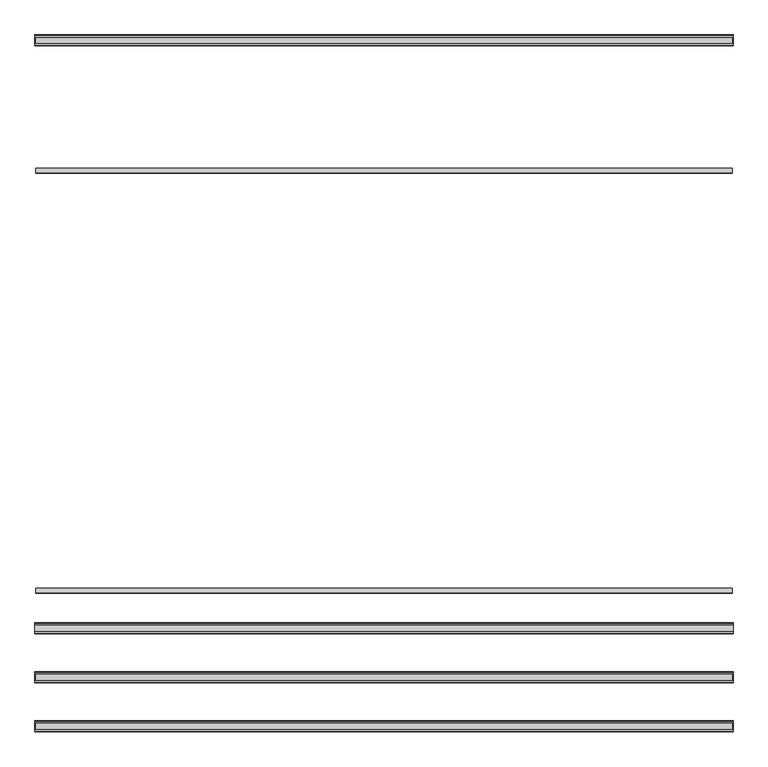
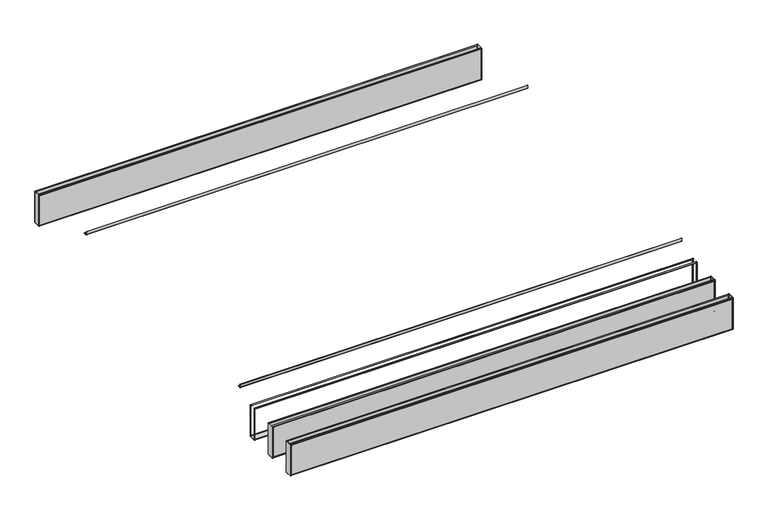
"""IFC4 building model written with IfcOpenShell, lengths in millimetres: proxy geometry, durlum_POLYLAM_KS : durlum_POLYLAM-KS/-S 63."""

import ifcopenshell
import ifcopenshell.guid

model = None  # the IFC model being written
_history = None  # IfcOwnerHistory: only IFC2X3 demands one
_inside = {}  # id of a spatial element -> (the spatial element, [elements in it])
_under = {}  # id of a project, library or spatial element -> (it, [spatial elements below it])
_declared = {}  # id of a project -> (the project, [libraries it declares])
_typed = {}  # id of a type object -> (the type object, [elements of that type])
_made_of = {}  # id of a material, layer set ... -> (it, [elements and type objects made of it])


def new_model(schema):
    """Start an empty IFC model of exactly this schema.

    Asked for "IFC4X3", IfcOpenShell would pick the latest addendum, in which some entities
    have other attributes; the version numbers below select the first issue.
    IFC2X3 requires an IfcOwnerHistory on every rooted entity: one is made here for all.
    """
    global model, _history
    if schema == "IFC4X3":
        model = ifcopenshell.file(schema_version=(4, 3, 0, 0))
    else:
        model = ifcopenshell.file(schema=schema)
    _inside.clear()
    _under.clear()
    _declared.clear()
    _typed.clear()
    _made_of.clear()
    _history = None
    if model.schema == "IFC2X3":
        org = make("IfcOrganization", Name="unknown")
        user = make(
            "IfcPersonAndOrganization",
            ThePerson=make("IfcPerson", FamilyName="unknown"),
            TheOrganization=org,
        )
        app = make(
            "IfcApplication",
            ApplicationDeveloper=org,
            Version="unknown",
            ApplicationFullName="unknown",
            ApplicationIdentifier="unknown",
        )
        _history = make(
            "IfcOwnerHistory",
            OwningUser=user,
            OwningApplication=app,
            ChangeAction="ADDED",
            CreationDate=0,
        )
    return model


def make(cls, **values):
    """One entity of the class cls with the attributes given. An attribute that is None is left unset."""
    return model.create_entity(
        cls, **{name: value for name, value in values.items() if value is not None}
    )


def rooted(cls, **values):
    """An entity with a GlobalId (a new one), such as an element, a storey or a relation."""
    return make(cls, GlobalId=ifcopenshell.guid.new(), OwnerHistory=_history, **values)


def si_unit(unit_type, name, prefix=None):
    """IfcSIUnit, for example si_unit("LENGTHUNIT", "METRE", prefix="MILLI")."""
    return make("IfcSIUnit", UnitType=unit_type, Prefix=prefix, Name=name)


def assignment(units):
    """IfcUnitAssignment: the units of a project."""
    return None if units is None else make("IfcUnitAssignment", Units=units)


def point(xyz):
    """IfcCartesianPoint."""
    return None if xyz is None else make("IfcCartesianPoint", Coordinates=xyz)


def direction(xyz):
    """IfcDirection."""
    return None if xyz is None else make("IfcDirection", DirectionRatios=xyz)


def frame(location, z_axis=None, x_axis=None):
    """IfcAxis2Placement3D, a coordinate frame: its origin and axes. An axis left out is left unset."""
    return make(
        "IfcAxis2Placement3D",
        Location=point(location),
        Axis=direction(z_axis),
        RefDirection=direction(x_axis),
    )


def frame_2d(location, x_axis=None):
    """IfcAxis2Placement2D, a coordinate frame in the plane: its origin and x axis."""
    return make(
        "IfcAxis2Placement2D", Location=point(location), RefDirection=direction(x_axis)
    )


def origin():
    """The frame at (0, 0, 0) with its axes left unset."""
    return frame((0.0, 0.0, 0.0))


def place(relative_to, where):
    """IfcLocalPlacement: puts the frame where relative to a parent placement (None: the world)."""
    return make(
        "IfcLocalPlacement", PlacementRelTo=relative_to, RelativePlacement=where
    )


def context(
    kind, dimensions, precision=None, world=None, true_north=None, identifier=None
):
    """IfcGeometricRepresentationContext, for example the 3D "Model" context."""
    return make(
        "IfcGeometricRepresentationContext",
        ContextIdentifier=identifier,
        ContextType=kind,
        CoordinateSpaceDimension=dimensions,
        Precision=precision,
        WorldCoordinateSystem=world,
        TrueNorth=true_north,
    )


def project(units=None, contexts=None):
    """IfcProject with its units and contexts."""
    return rooted(
        "IfcProject",
        Name="project",
        RepresentationContexts=contexts,
        UnitsInContext=assignment(units),
    )


def spatial(cls, under=None, at=None, **own):
    """A site, building, storey or space (cls), placed at a placement, below another one or the project."""
    s = rooted(cls, ObjectPlacement=at, **own)
    if under is not None:
        _under.setdefault(under.id(), (under, []))[1].append(s)
    return s


def polyline(points):
    """IfcPolyline through the points."""
    return make("IfcPolyline", Points=[point(p) for p in points])


def circle_curve(where, radius):
    """IfcCircle in the frame where."""
    return make("IfcCircle", Position=where, Radius=radius)


def trimmed(basis, trim1, trim2, sense, master):
    """IfcTrimmedCurve: the piece of a basis curve between two trims."""
    return make(
        "IfcTrimmedCurve",
        BasisCurve=basis,
        Trim1=trim1,
        Trim2=trim2,
        SenseAgreement=sense,
        MasterRepresentation=master,
    )


def segment(curve, same_sense, transition):
    """IfcCompositeCurveSegment."""
    return make(
        "IfcCompositeCurveSegment",
        Transition=transition,
        SameSense=same_sense,
        ParentCurve=curve,
    )


def composite_curve(segments, self_intersect=None):
    """IfcCompositeCurve: segments joined end to end."""
    return make("IfcCompositeCurve", Segments=segments, SelfIntersect=self_intersect)


def outline(outer, holes=None, kind="AREA"):
    """IfcArbitraryClosedProfileDef: a profile drawn as a closed curve; with holes, ...WithVoids."""
    if holes is None:
        return make("IfcArbitraryClosedProfileDef", ProfileType=kind, OuterCurve=outer)
    return make(
        "IfcArbitraryProfileDefWithVoids",
        ProfileType=kind,
        OuterCurve=outer,
        InnerCurves=holes,
    )


def extrude(swept, where, along, depth):
    """IfcExtrudedAreaSolid: the profile swept, set in the frame where, extruded along a direction by depth."""
    return make(
        "IfcExtrudedAreaSolid",
        SweptArea=swept,
        Position=where,
        ExtrudedDirection=direction(along),
        Depth=depth,
    )


def shape(context_of_items, identifier, shape_type, items):
    """IfcShapeRepresentation: the items that make up one representation, for example the "Body"."""
    return make(
        "IfcShapeRepresentation",
        ContextOfItems=context_of_items,
        RepresentationIdentifier=identifier,
        RepresentationType=shape_type,
        Items=items,
    )


def source(mapping_origin, context_of_items, identifier, shape_type, items):
    """IfcRepresentationMap: a shape defined once, which mapped items show again and again."""
    return make(
        "IfcRepresentationMap",
        MappingOrigin=mapping_origin,
        MappedRepresentation=shape(context_of_items, identifier, shape_type, items),
    )


def transform(
    local_origin,
    x_axis=None,
    y_axis=None,
    z_axis=None,
    scale=None,
    scale2=None,
    scale3=None,
    uniform=True,
):
    """IfcCartesianTransformationOperator3D, or its non-uniform kind. x_axis, y_axis, z_axis: its Axis1, 2, 3."""
    if uniform:
        return make(
            "IfcCartesianTransformationOperator3D",
            Axis1=direction(x_axis),
            Axis2=direction(y_axis),
            LocalOrigin=point(local_origin),
            Scale=scale,
            Axis3=direction(z_axis),
        )
    return make(
        "IfcCartesianTransformationOperator3DnonUniform",
        Axis1=direction(x_axis),
        Axis2=direction(y_axis),
        LocalOrigin=point(local_origin),
        Scale=scale,
        Axis3=direction(z_axis),
        Scale2=scale2,
        Scale3=scale3,
    )


def mapped(mapping_source, mapping_target):
    """IfcMappedItem: shows the shape of a source again, moved by a transform."""
    return make(
        "IfcMappedItem", MappingSource=mapping_source, MappingTarget=mapping_target
    )


def made_of(thing, what):
    """Note that an element or type object is made of a material, layer set ...; save() writes the relation."""
    if what is not None:
        _made_of.setdefault(what.id(), (what, []))[1].append(thing)
    return thing


def element(
    cls,
    number,
    at=None,
    inside=None,
    cuts=None,
    type_object=None,
    material=None,
    context=None,
    identifier="Body",
    shape_type=None,
    held_by="IfcProductDefinitionShape",
    body=None,
    shapes=None,
    **own,
):
    """One element of the class cls, such as IfcWall. Its Tag is "e" and its number.

    at: its placement. inside: the storey or other place that contains it. cuts: it is an
    opening in that element (IfcRelVoidsElement). A single representation is given by context,
    identifier, shape_type and body (its items); several are given by shapes. held_by: the class
    of the entity that holds the representations. save() writes the other relations.
    """
    e = rooted(cls, Tag="e%d" % number, ObjectPlacement=at, **own)
    if body is not None:
        shapes = [shape(context, identifier, shape_type, body)]
    if shapes is not None:
        e.Representation = make(held_by, Representations=shapes)
    if inside is not None:
        _inside.setdefault(inside.id(), (inside, []))[1].append(e)
    if cuts is not None:
        rooted(
            "IfcRelVoidsElement", RelatingBuildingElement=cuts, RelatedOpeningElement=e
        )
    if type_object is not None:
        _typed.setdefault(type_object.id(), (type_object, []))[1].append(e)
    return made_of(e, material)


def aggregate(whole, parts):
    """IfcRelAggregates: a whole, such as a stair, and the parts it consists of."""
    return rooted("IfcRelAggregates", RelatingObject=whole, RelatedObjects=parts)


def save(model, path):
    """Write the relations noted so far, then the file.

    IfcRelAggregates (storeys below a building ...), IfcRelContainedInSpatialStructure (elements
    in a storey), IfcRelDefinesByType, IfcRelAssociatesMaterial and IfcRelDeclares: one each for
    every whole, place, type object, material and project.
    """
    for whole, parts in _under.values():
        aggregate(whole, parts)
    for where, things in _inside.values():
        rooted(
            "IfcRelContainedInSpatialStructure",
            RelatedElements=things,
            RelatingStructure=where,
        )
    for kind, things in _typed.values():
        rooted("IfcRelDefinesByType", RelatedObjects=things, RelatingType=kind)
    for what, things in _made_of.values():
        rooted("IfcRelAssociatesMaterial", RelatedObjects=things, RelatingMaterial=what)
    for by, libraries in _declared.values():
        rooted("IfcRelDeclares", RelatingContext=by, RelatedDefinitions=libraries)
    model.write(path)


def plane_surface(at):
    """IfcPlane: the flat surface through the origin of the frame at, square to its z axis."""
    return make("IfcPlane", Position=at)


def cylinder_surface(at, radius):
    """IfcCylindricalSurface: all points at the distance radius from the z axis of the frame at."""
    return make("IfcCylindricalSurface", Position=at, Radius=radius)


def advanced_brep(points, edges, surfaces, faces):
    """IfcAdvancedBrep: a solid bounded by faces that lie on surfaces and meet in shared edges.

    An edge is (start, end): straight between two places in points (the first is 0);
    or (start, end, curve); or (start, end, curve, False) where it runs against its curve.
    A face is (place in surfaces, loops), or (place, loops, False) where it looks against
    its surface's normal. A loop lists edges by number (the first is 1), with a minus sign
    where the edge is run from its end to its start. The first loop is the outer one.
    """
    corners = [point(p) for p in points]
    vertices = [make("IfcVertexPoint", VertexGeometry=c) for c in corners]
    made = []
    for start, end, *more in edges:
        made.append(
            make(
                "IfcEdgeCurve",
                EdgeStart=vertices[start],
                EdgeEnd=vertices[end],
                EdgeGeometry=more[0] if more else make("IfcPolyline", Points=[corners[start], corners[end]]),
                SameSense=more[1] if len(more) > 1 else True,
            )
        )
    hull = []
    for where, loops, *sense in faces:
        bounds = []
        for j, loop in enumerate(loops):
            ring = [make("IfcOrientedEdge", EdgeElement=made[abs(k) - 1], Orientation=k > 0) for k in loop]
            bounds.append(
                make(
                    "IfcFaceOuterBound" if j == 0 else "IfcFaceBound",
                    Bound=make("IfcEdgeLoop", EdgeList=ring),
                    Orientation=True,
                )
            )
        hull.append(make("IfcAdvancedFace", Bounds=bounds, FaceSurface=surfaces[where], SameSense=sense[0] if sense else True))
    return make("IfcAdvancedBrep", Outer=make("IfcClosedShell", CfsFaces=hull))


def generic_models_3c33ed08(model_context):
    return source(origin(), model_context, "Body", "SolidModel", [
        advanced_brep(
        [(1995.0, -1370.5, 1990.9), (1995.0, -1380.5, 1990.9), (1995.0, -1380.5, 1990.0604454), (1995.0, -1369.5, 1990.0604454), (1995.0, -1369.5, 1691.9), (1995.0, -1430.5, 1691.9), (1995.0, -1430.5, 1989.8155735), (1995.0, -1419.5, 1989.8155735), (1995.0, -1419.5, 1990.9), (1995.0, -1429.5, 1990.9), (1995.0, -1431.5, 1988.9), (1995.0, -1431.5, 1692.9), (1995.0, -1429.5, 1690.9), (1995.0, -1370.5, 1690.9), (1995.0, -1368.5, 1692.9), (1995.0, -1368.5, 1988.9), (-1995.0, -1370.5, 1990.9), (-1995.0, -1368.5, 1988.9), (-1995.0, -1368.5, 1692.9), (-1995.0, -1370.5, 1690.9), (-1995.0, -1429.5, 1690.9), (-1995.0, -1431.5, 1692.9), (-1995.0, -1431.5, 1988.9), (-1995.0, -1429.5, 1990.9), (-1995.0, -1419.5, 1990.9), (-1995.0, -1419.5, 1989.8155735), (-1995.0, -1430.5, 1989.8155735), (-1995.0, -1430.5, 1691.9), (-1995.0, -1369.5, 1691.9), (-1995.0, -1369.5, 1990.0604454), (-1995.0, -1380.5, 1990.0604454), (-1995.0, -1380.5, 1990.9), (-1986.5, -1369.5, 1982.4), (1986.5, -1369.5, 1982.4), (1986.5, -1369.5, 1699.4), (-1986.5, -1369.5, 1699.4), (1986.5, -1430.5, 1982.4), (-1986.5, -1430.5, 1982.4), (-1986.5, -1430.5, 1699.4), (1986.5, -1430.5, 1699.4), (-1986.5, -1431.5, 1982.4), (1986.5, -1431.5, 1982.4), (1986.5, -1431.5, 1699.4), (-1986.5, -1431.5, 1699.4), (1986.5, -1368.5, 1982.4), (-1986.5, -1368.5, 1982.4), (-1986.5, -1368.5, 1699.4), (1986.5, -1368.5, 1699.4)],
        [
            (0, 1),
            (1, 2),
            (2, 3),
            (3, 4),
            (4, 5),
            (5, 6),
            (6, 7),
            (7, 8),
            (8, 9),
            (9, 10, circle_curve(frame((1995.0, -1429.5, 1988.9), z_axis=(1.0, 0.0, 0.0), x_axis=(0.0, 1.0, 0.0)), 2.0)),
            (10, 11),
            (11, 12, circle_curve(frame((1995.0, -1429.5, 1692.9), z_axis=(1.0, 0.0, 0.0), x_axis=(0.0, 1.0, 0.0)), 2.0)),
            (12, 13),
            (13, 14, circle_curve(frame((1995.0, -1370.5, 1692.9), z_axis=(1.0, 0.0, 0.0), x_axis=(0.0, 1.0, 0.0)), 2.0)),
            (14, 15),
            (15, 0, circle_curve(frame((1995.0, -1370.5, 1988.9), z_axis=(1.0, 0.0, 0.0), x_axis=(0.0, 1.0, 0.0)), 2.0)),
            (16, 17, circle_curve(frame((-1995.0, -1370.5, 1988.9), z_axis=(-1.0, 0.0, 0.0), x_axis=(0.0, 1.0, 0.0)), 2.0)),
            (17, 18),
            (18, 19, circle_curve(frame((-1995.0, -1370.5, 1692.9), z_axis=(-1.0, 0.0, 0.0), x_axis=(0.0, 1.0, 0.0)), 2.0)),
            (19, 20),
            (20, 21, circle_curve(frame((-1995.0, -1429.5, 1692.9), z_axis=(-1.0, 0.0, 0.0), x_axis=(0.0, 1.0, 0.0)), 2.0)),
            (21, 22),
            (22, 23, circle_curve(frame((-1995.0, -1429.5, 1988.9), z_axis=(-1.0, 0.0, 0.0), x_axis=(0.0, 1.0, 0.0)), 2.0)),
            (23, 24),
            (24, 25),
            (25, 26),
            (26, 27),
            (27, 28),
            (28, 29),
            (29, 30),
            (30, 31),
            (31, 16),
            (0, 16),
            (31, 1),
            (30, 2),
            (29, 3),
            (28, 4),
            (32, 33),
            (33, 34),
            (34, 35),
            (35, 32),
            (27, 5),
            (26, 6),
            (36, 37),
            (37, 38),
            (38, 39),
            (39, 36),
            (25, 7),
            (24, 8),
            (23, 9),
            (10, 22),
            (21, 11),
            (40, 41),
            (41, 42),
            (42, 43),
            (43, 40),
            (12, 20),
            (19, 13),
            (14, 18),
            (17, 15),
            (44, 45),
            (45, 46),
            (46, 47),
            (47, 44),
            (44, 33),
            (32, 45),
            (36, 41),
            (40, 37),
            (35, 46),
            (43, 38),
            (34, 47),
            (42, 39),
        ],
        [
            plane_surface(frame((1995.0, -1380.5, 1990.9), z_axis=(1.0, 0.0, 0.0), x_axis=(0.0, -1.0, 0.0))),
            plane_surface(frame((-1995.0, -1380.5, 1990.9), z_axis=(-1.0, 0.0, 0.0), x_axis=(0.0, 1.0, 0.0))),
            plane_surface(frame((1995.0, -1370.5, 1990.9), z_axis=(0.0, 0.0, 1.0), x_axis=(-1.0, 0.0, 0.0))),
            plane_surface(frame((1995.0, -1380.5, 1990.9), z_axis=(0.0, -1.0, 0.0), x_axis=(-1.0, 0.0, 0.0))),
            plane_surface(frame((1995.0, -1380.5, 1990.0604454), z_axis=(0.0, 0.0, -1.0), x_axis=(-1.0, 0.0, 0.0))),
            plane_surface(frame((1995.0, -1369.5, 1990.0604454), z_axis=(0.0, -1.0, 0.0), x_axis=(-1.0, 0.0, 0.0))),
            plane_surface(frame((1995.0, -1369.5, 1691.9), z_axis=(0.0, 0.0, 1.0), x_axis=(-1.0, 0.0, 0.0))),
            plane_surface(frame((1995.0, -1430.5, 1691.9), z_axis=(0.0, 1.0, 0.0), x_axis=(-1.0, 0.0, 0.0))),
            plane_surface(frame((1995.0, -1430.5, 1989.8155735), z_axis=(0.0, 0.0, -1.0), x_axis=(-1.0, 0.0, 0.0))),
            plane_surface(frame((1995.0, -1419.5, 1989.8155735), z_axis=(0.0, 1.0, 0.0), x_axis=(-1.0, 0.0, 0.0))),
            plane_surface(frame((1995.0, -1419.5, 1990.9), z_axis=(0.0, 0.0, 1.0), x_axis=(-1.0, 0.0, 0.0))),
            plane_surface(frame((1995.0, -1431.5, 1988.9), z_axis=(0.0, -1.0, 0.0), x_axis=(-1.0, 0.0, 0.0))),
            plane_surface(frame((1995.0, -1429.5, 1690.9), z_axis=(0.0, 0.0, -1.0), x_axis=(-1.0, 0.0, 0.0))),
            plane_surface(frame((1995.0, -1368.5, 1692.9), z_axis=(0.0, 1.0, 0.0), x_axis=(-1.0, 0.0, 0.0))),
            cylinder_surface(frame((-1995.0, -1429.5, 1988.9), z_axis=(1.0, 0.0, 0.0), x_axis=(0.0, 1.0, 0.0)), 2.0),
            cylinder_surface(frame((-1995.0, -1429.5, 1692.9), z_axis=(1.0, 0.0, 0.0), x_axis=(0.0, 1.0, 0.0)), 2.0),
            cylinder_surface(frame((-1995.0, -1370.5, 1692.9), z_axis=(1.0, 0.0, 0.0), x_axis=(0.0, 1.0, 0.0)), 2.0),
            cylinder_surface(frame((-1995.0, -1370.5, 1988.9), z_axis=(1.0, 0.0, 0.0), x_axis=(0.0, 1.0, 0.0)), 2.0),
            plane_surface(frame((1986.5, -1431.5, 1982.4), z_axis=(0.0, 0.0, -1.0), x_axis=(0.0, 1.0, 0.0))),
            plane_surface(frame((-1986.5, -1431.5, 1982.4), z_axis=(1.0, 0.0, 0.0), x_axis=(0.0, 1.0, 0.0))),
            plane_surface(frame((-1986.5, -1431.5, 1699.4), z_axis=(0.0, 0.0, 1.0), x_axis=(0.0, 1.0, 0.0))),
            plane_surface(frame((1986.5, -1431.5, 1699.4), z_axis=(-1.0, 0.0, 0.0), x_axis=(0.0, 1.0, 0.0))),
        ],
        [
            (0, [[1, 2, 3, 4, 5, 6, 7, 8, 9, 10, 11, 12, 13, 14, 15, 16]]),
            (1, [[17, 18, 19, 20, 21, 22, 23, 24, 25, 26, 27, 28, 29, 30, 31, 32]]),
            (2, [[-1, 33, -32, 34]]),
            (3, [[-2, -34, -31, 35]]),
            (4, [[-3, -35, -30, 36]]),
            (5, [[-4, -36, -29, 37], [38, 39, 40, 41]]),
            (6, [[-5, -37, -28, 42]]),
            (7, [[-6, -42, -27, 43], [44, 45, 46, 47]]),
            (8, [[-7, -43, -26, 48]]),
            (9, [[-8, -48, -25, 49]]),
            (10, [[-9, -49, -24, 50]]),
            (11, [[-11, 51, -22, 52], [53, 54, 55, 56]]),
            (12, [[-13, 57, -20, 58]]),
            (13, [[-15, 59, -18, 60], [61, 62, 63, 64]]),
            (14, [[-10, -50, -23, -51]]),
            (15, [[-12, -52, -21, -57]]),
            (16, [[-14, -58, -19, -59]]),
            (17, [[-16, -60, -17, -33]]),
            (18, [[65, -38, 66, -61]]),
            (18, [[67, -53, 68, -44]]),
            (19, [[-66, -41, 69, -62]]),
            (19, [[-68, -56, 70, -45]]),
            (20, [[-69, -40, 71, -63]]),
            (20, [[-70, -55, 72, -46]]),
            (21, [[-65, -64, -71, -39]]),
            (21, [[-67, -47, -72, -54]]),
        ],
    ),
        extrude(outline(polyline([(1986.5, -1649.5), (-1986.5, -1649.5), (-1986.5, -1648.5), (1986.5, -1648.5), (1986.5, -1649.5)])), frame((0.0, 0.0, 1699.4), z_axis=(0.0, 0.0, 1.0), x_axis=(1.0, 0.0, 0.0)), (0.0, 0.0, 1.0), 283.0),
        extrude(outline(polyline([(1986.5, -1711.5), (-1986.5, -1711.5), (-1986.5, -1710.5), (1986.5, -1710.5), (1986.5, -1711.5)])), frame((0.0, 0.0, 1699.4), z_axis=(0.0, 0.0, 1.0), x_axis=(1.0, 0.0, 0.0)), (0.0, 0.0, 1.0), 283.0),
        extrude(outline(polyline([(1993.0, -1649.5), (1995.0, -1649.5), (1995.0, -1710.5), (1993.0, -1710.5), (1993.0, -1649.5)])), frame((0.0, 0.0, 1691.9), z_axis=(0.0, 0.0, 1.0), x_axis=(1.0, 0.0, 0.0)), (0.0, 0.0, 1.0), 298.1604454),
        extrude(outline(polyline([(-1995.0, -1649.5), (-1993.0, -1649.5), (-1993.0, -1710.5), (-1995.0, -1710.5), (-1995.0, -1649.5)])), frame((0.0, 0.0, 1691.9), z_axis=(0.0, 0.0, 1.0), x_axis=(1.0, 0.0, 0.0)), (0.0, 0.0, 1.0), 298.1604454),
        advanced_brep(
        [(1995.0, -1650.5, 1990.9), (1995.0, -1660.5, 1990.9), (1995.0, -1660.5, 1990.0604454), (1995.0, -1649.5, 1990.0604454), (1995.0, -1649.5, 1691.9), (1995.0, -1710.5, 1691.9), (1995.0, -1710.5, 1989.8155735), (1995.0, -1699.5, 1989.8155735), (1995.0, -1699.5, 1990.9), (1995.0, -1709.5, 1990.9), (1995.0, -1711.5, 1988.9), (1995.0, -1711.5, 1692.9), (1995.0, -1709.5, 1690.9), (1995.0, -1650.5, 1690.9), (1995.0, -1648.5, 1692.9), (1995.0, -1648.5, 1988.9), (-1995.0, -1650.5, 1990.9), (-1995.0, -1648.5, 1988.9), (-1995.0, -1648.5, 1692.9), (-1995.0, -1650.5, 1690.9), (-1995.0, -1709.5, 1690.9), (-1995.0, -1711.5, 1692.9), (-1995.0, -1711.5, 1988.9), (-1995.0, -1709.5, 1990.9), (-1995.0, -1699.5, 1990.9), (-1995.0, -1699.5, 1989.8155735), (-1995.0, -1710.5, 1989.8155735), (-1995.0, -1710.5, 1691.9), (-1995.0, -1649.5, 1691.9), (-1995.0, -1649.5, 1990.0604454), (-1995.0, -1660.5, 1990.0604454), (-1995.0, -1660.5, 1990.9), (-1986.5, -1649.5, 1982.4), (1986.5, -1649.5, 1982.4), (1986.5, -1649.5, 1699.4), (-1986.5, -1649.5, 1699.4), (1986.5, -1710.5, 1982.4), (-1986.5, -1710.5, 1982.4), (-1986.5, -1710.5, 1699.4), (1986.5, -1710.5, 1699.4), (-1986.5, -1711.5, 1982.4), (1986.5, -1711.5, 1982.4), (1986.5, -1711.5, 1699.4), (-1986.5, -1711.5, 1699.4), (1986.5, -1648.5, 1982.4), (-1986.5, -1648.5, 1982.4), (-1986.5, -1648.5, 1699.4), (1986.5, -1648.5, 1699.4)],
        [
            (0, 1),
            (1, 2),
            (2, 3),
            (3, 4),
            (4, 5),
            (5, 6),
            (6, 7),
            (7, 8),
            (8, 9),
            (9, 10, circle_curve(frame((1995.0, -1709.5, 1988.9), z_axis=(1.0, 0.0, 0.0), x_axis=(0.0, 1.0, 0.0)), 2.0)),
            (10, 11),
            (11, 12, circle_curve(frame((1995.0, -1709.5, 1692.9), z_axis=(1.0, 0.0, 0.0), x_axis=(0.0, 1.0, 0.0)), 2.0)),
            (12, 13),
            (13, 14, circle_curve(frame((1995.0, -1650.5, 1692.9), z_axis=(1.0, 0.0, 0.0), x_axis=(0.0, 1.0, 0.0)), 2.0)),
            (14, 15),
            (15, 0, circle_curve(frame((1995.0, -1650.5, 1988.9), z_axis=(1.0, 0.0, 0.0), x_axis=(0.0, 1.0, 0.0)), 2.0)),
            (16, 17, circle_curve(frame((-1995.0, -1650.5, 1988.9), z_axis=(-1.0, 0.0, 0.0), x_axis=(0.0, 1.0, 0.0)), 2.0)),
            (17, 18),
            (18, 19, circle_curve(frame((-1995.0, -1650.5, 1692.9), z_axis=(-1.0, 0.0, 0.0), x_axis=(0.0, 1.0, 0.0)), 2.0)),
            (19, 20),
            (20, 21, circle_curve(frame((-1995.0, -1709.5, 1692.9), z_axis=(-1.0, 0.0, 0.0), x_axis=(0.0, 1.0, 0.0)), 2.0)),
            (21, 22),
            (22, 23, circle_curve(frame((-1995.0, -1709.5, 1988.9), z_axis=(-1.0, 0.0, 0.0), x_axis=(0.0, 1.0, 0.0)), 2.0)),
            (23, 24),
            (24, 25),
            (25, 26),
            (26, 27),
            (27, 28),
            (28, 29),
            (29, 30),
            (30, 31),
            (31, 16),
            (0, 16),
            (31, 1),
            (30, 2),
            (29, 3),
            (28, 4),
            (32, 33),
            (33, 34),
            (34, 35),
            (35, 32),
            (27, 5),
            (26, 6),
            (36, 37),
            (37, 38),
            (38, 39),
            (39, 36),
            (25, 7),
            (24, 8),
            (23, 9),
            (10, 22),
            (21, 11),
            (40, 41),
            (41, 42),
            (42, 43),
            (43, 40),
            (12, 20),
            (19, 13),
            (14, 18),
            (17, 15),
            (44, 45),
            (45, 46),
            (46, 47),
            (47, 44),
            (44, 33),
            (32, 45),
            (36, 41),
            (40, 37),
            (35, 46),
            (43, 38),
            (34, 47),
            (42, 39),
        ],
        [
            plane_surface(frame((1995.0, -1660.5, 1990.9), z_axis=(1.0, 0.0, 0.0), x_axis=(0.0, -1.0, 0.0))),
            plane_surface(frame((-1995.0, -1660.5, 1990.9), z_axis=(-1.0, 0.0, 0.0), x_axis=(0.0, 1.0, 0.0))),
            plane_surface(frame((1995.0, -1650.5, 1990.9), z_axis=(0.0, 0.0, 1.0), x_axis=(-1.0, 0.0, 0.0))),
            plane_surface(frame((1995.0, -1660.5, 1990.9), z_axis=(0.0, -1.0, 0.0), x_axis=(-1.0, 0.0, 0.0))),
            plane_surface(frame((1995.0, -1660.5, 1990.0604454), z_axis=(0.0, 0.0, -1.0), x_axis=(-1.0, 0.0, 0.0))),
            plane_surface(frame((1995.0, -1649.5, 1990.0604454), z_axis=(0.0, -1.0, 0.0), x_axis=(-1.0, 0.0, 0.0))),
            plane_surface(frame((1995.0, -1649.5, 1691.9), z_axis=(0.0, 0.0, 1.0), x_axis=(-1.0, 0.0, 0.0))),
            plane_surface(frame((1995.0, -1710.5, 1691.9), z_axis=(0.0, 1.0, 0.0), x_axis=(-1.0, 0.0, 0.0))),
            plane_surface(frame((1995.0, -1710.5, 1989.8155735), z_axis=(0.0, 0.0, -1.0), x_axis=(-1.0, 0.0, 0.0))),
            plane_surface(frame((1995.0, -1699.5, 1989.8155735), z_axis=(0.0, 1.0, 0.0), x_axis=(-1.0, 0.0, 0.0))),
            plane_surface(frame((1995.0, -1699.5, 1990.9), z_axis=(0.0, 0.0, 1.0), x_axis=(-1.0, 0.0, 0.0))),
            plane_surface(frame((1995.0, -1711.5, 1988.9), z_axis=(0.0, -1.0, 0.0), x_axis=(-1.0, 0.0, 0.0))),
            plane_surface(frame((1995.0, -1709.5, 1690.9), z_axis=(0.0, 0.0, -1.0), x_axis=(-1.0, 0.0, 0.0))),
            plane_surface(frame((1995.0, -1648.5, 1692.9), z_axis=(0.0, 1.0, 0.0), x_axis=(-1.0, 0.0, 0.0))),
            cylinder_surface(frame((-1995.0, -1709.5, 1988.9), z_axis=(1.0, 0.0, 0.0), x_axis=(0.0, 1.0, 0.0)), 2.0),
            cylinder_surface(frame((-1995.0, -1709.5, 1692.9), z_axis=(1.0, 0.0, 0.0), x_axis=(0.0, 1.0, 0.0)), 2.0),
            cylinder_surface(frame((-1995.0, -1650.5, 1692.9), z_axis=(1.0, 0.0, 0.0), x_axis=(0.0, 1.0, 0.0)), 2.0),
            cylinder_surface(frame((-1995.0, -1650.5, 1988.9), z_axis=(1.0, 0.0, 0.0), x_axis=(0.0, 1.0, 0.0)), 2.0),
            plane_surface(frame((1986.5, -1711.5, 1982.4), z_axis=(0.0, 0.0, -1.0), x_axis=(0.0, 1.0, 0.0))),
            plane_surface(frame((-1986.5, -1711.5, 1982.4), z_axis=(1.0, 0.0, 0.0), x_axis=(0.0, 1.0, 0.0))),
            plane_surface(frame((-1986.5, -1711.5, 1699.4), z_axis=(0.0, 0.0, 1.0), x_axis=(0.0, 1.0, 0.0))),
            plane_surface(frame((1986.5, -1711.5, 1699.4), z_axis=(-1.0, 0.0, 0.0), x_axis=(0.0, 1.0, 0.0))),
        ],
        [
            (0, [[1, 2, 3, 4, 5, 6, 7, 8, 9, 10, 11, 12, 13, 14, 15, 16]]),
            (1, [[17, 18, 19, 20, 21, 22, 23, 24, 25, 26, 27, 28, 29, 30, 31, 32]]),
            (2, [[-1, 33, -32, 34]]),
            (3, [[-2, -34, -31, 35]]),
            (4, [[-3, -35, -30, 36]]),
            (5, [[-4, -36, -29, 37], [38, 39, 40, 41]]),
            (6, [[-5, -37, -28, 42]]),
            (7, [[-6, -42, -27, 43], [44, 45, 46, 47]]),
            (8, [[-7, -43, -26, 48]]),
            (9, [[-8, -48, -25, 49]]),
            (10, [[-9, -49, -24, 50]]),
            (11, [[-11, 51, -22, 52], [53, 54, 55, 56]]),
            (12, [[-13, 57, -20, 58]]),
            (13, [[-15, 59, -18, 60], [61, 62, 63, 64]]),
            (14, [[-10, -50, -23, -51]]),
            (15, [[-12, -52, -21, -57]]),
            (16, [[-14, -58, -19, -59]]),
            (17, [[-16, -60, -17, -33]]),
            (18, [[65, -38, 66, -61]]),
            (18, [[67, -53, 68, -44]]),
            (19, [[-66, -41, 69, -62]]),
            (19, [[-68, -56, 70, -45]]),
            (20, [[-69, -40, 71, -63]]),
            (20, [[-70, -55, 72, -46]]),
            (21, [[-65, -64, -71, -39]]),
            (21, [[-67, -47, -72, -54]]),
        ],
    ),
        extrude(outline(polyline([(1986.5, 1990.5), (-1986.5, 1990.5), (-1986.5, 1991.5), (1986.5, 1991.5), (1986.5, 1990.5)])), frame((0.0, 0.0, 1699.4), z_axis=(0.0, 0.0, 1.0), x_axis=(1.0, 0.0, 0.0)), (0.0, 0.0, 1.0), 283.0),
        extrude(outline(polyline([(1986.5, 1928.5), (-1986.5, 1928.5), (-1986.5, 1929.5), (1986.5, 1929.5), (1986.5, 1928.5)])), frame((0.0, 0.0, 1699.4), z_axis=(0.0, 0.0, 1.0), x_axis=(1.0, 0.0, 0.0)), (0.0, 0.0, 1.0), 283.0),
        extrude(outline(polyline([(1993.0, 1990.5), (1995.0, 1990.5), (1995.0, 1929.5), (1993.0, 1929.5), (1993.0, 1990.5)])), frame((0.0, 0.0, 1691.9), z_axis=(0.0, 0.0, 1.0), x_axis=(1.0, 0.0, 0.0)), (0.0, 0.0, 1.0), 298.1604454),
        extrude(outline(polyline([(-1995.0, 1990.5), (-1993.0, 1990.5), (-1993.0, 1929.5), (-1995.0, 1929.5), (-1995.0, 1990.5)])), frame((0.0, 0.0, 1691.9), z_axis=(0.0, 0.0, 1.0), x_axis=(1.0, 0.0, 0.0)), (0.0, 0.0, 1.0), 298.1604454),
        advanced_brep(
        [(1995.0, 1989.5, 1990.9), (1995.0, 1979.5, 1990.9), (1995.0, 1979.5, 1990.0604454), (1995.0, 1990.5, 1990.0604454), (1995.0, 1990.5, 1691.9), (1995.0, 1929.5, 1691.9), (1995.0, 1929.5, 1989.8155735), (1995.0, 1940.5, 1989.8155735), (1995.0, 1940.5, 1990.9), (1995.0, 1930.5, 1990.9), (1995.0, 1928.5, 1988.9), (1995.0, 1928.5, 1692.9), (1995.0, 1930.5, 1690.9), (1995.0, 1989.5, 1690.9), (1995.0, 1991.5, 1692.9), (1995.0, 1991.5, 1988.9), (-1995.0, 1989.5, 1990.9), (-1995.0, 1991.5, 1988.9), (-1995.0, 1991.5, 1692.9), (-1995.0, 1989.5, 1690.9), (-1995.0, 1930.5, 1690.9), (-1995.0, 1928.5, 1692.9), (-1995.0, 1928.5, 1988.9), (-1995.0, 1930.5, 1990.9), (-1995.0, 1940.5, 1990.9), (-1995.0, 1940.5, 1989.8155735), (-1995.0, 1929.5, 1989.8155735), (-1995.0, 1929.5, 1691.9), (-1995.0, 1990.5, 1691.9), (-1995.0, 1990.5, 1990.0604454), (-1995.0, 1979.5, 1990.0604454), (-1995.0, 1979.5, 1990.9), (-1986.5, 1990.5, 1982.4), (1986.5, 1990.5, 1982.4), (1986.5, 1990.5, 1699.4), (-1986.5, 1990.5, 1699.4), (1986.5, 1929.5, 1982.4), (-1986.5, 1929.5, 1982.4), (-1986.5, 1929.5, 1699.4), (1986.5, 1929.5, 1699.4), (-1986.5, 1928.5, 1982.4), (1986.5, 1928.5, 1982.4), (1986.5, 1928.5, 1699.4), (-1986.5, 1928.5, 1699.4), (1986.5, 1991.5, 1982.4), (-1986.5, 1991.5, 1982.4), (-1986.5, 1991.5, 1699.4), (1986.5, 1991.5, 1699.4)],
        [
            (0, 1),
            (1, 2),
            (2, 3),
            (3, 4),
            (4, 5),
            (5, 6),
            (6, 7),
            (7, 8),
            (8, 9),
            (9, 10, circle_curve(frame((1995.0, 1930.5, 1988.9), z_axis=(1.0, 0.0, 0.0), x_axis=(0.0, 1.0, 0.0)), 2.0)),
            (10, 11),
            (11, 12, circle_curve(frame((1995.0, 1930.5, 1692.9), z_axis=(1.0, 0.0, 0.0), x_axis=(0.0, 1.0, 0.0)), 2.0)),
            (12, 13),
            (13, 14, circle_curve(frame((1995.0, 1989.5, 1692.9), z_axis=(1.0, 0.0, 0.0), x_axis=(0.0, 1.0, 0.0)), 2.0)),
            (14, 15),
            (15, 0, circle_curve(frame((1995.0, 1989.5, 1988.9), z_axis=(1.0, 0.0, 0.0), x_axis=(0.0, 1.0, 0.0)), 2.0)),
            (16, 17, circle_curve(frame((-1995.0, 1989.5, 1988.9), z_axis=(-1.0, 0.0, 0.0), x_axis=(0.0, 1.0, 0.0)), 2.0)),
            (17, 18),
            (18, 19, circle_curve(frame((-1995.0, 1989.5, 1692.9), z_axis=(-1.0, 0.0, 0.0), x_axis=(0.0, 1.0, 0.0)), 2.0)),
            (19, 20),
            (20, 21, circle_curve(frame((-1995.0, 1930.5, 1692.9), z_axis=(-1.0, 0.0, 0.0), x_axis=(0.0, 1.0, 0.0)), 2.0)),
            (21, 22),
            (22, 23, circle_curve(frame((-1995.0, 1930.5, 1988.9), z_axis=(-1.0, 0.0, 0.0), x_axis=(0.0, 1.0, 0.0)), 2.0)),
            (23, 24),
            (24, 25),
            (25, 26),
            (26, 27),
            (27, 28),
            (28, 29),
            (29, 30),
            (30, 31),
            (31, 16),
            (0, 16),
            (31, 1),
            (30, 2),
            (29, 3),
            (28, 4),
            (32, 33),
            (33, 34),
            (34, 35),
            (35, 32),
            (27, 5),
            (26, 6),
            (36, 37),
            (37, 38),
            (38, 39),
            (39, 36),
            (25, 7),
            (24, 8),
            (23, 9),
            (10, 22),
            (21, 11),
            (40, 41),
            (41, 42),
            (42, 43),
            (43, 40),
            (12, 20),
            (19, 13),
            (14, 18),
            (17, 15),
            (44, 45),
            (45, 46),
            (46, 47),
            (47, 44),
            (44, 33),
            (32, 45),
            (36, 41),
            (40, 37),
            (35, 46),
            (43, 38),
            (34, 47),
            (42, 39),
        ],
        [
            plane_surface(frame((1995.0, 1979.5, 1990.9), z_axis=(1.0, 0.0, 0.0), x_axis=(0.0, -1.0, 0.0))),
            plane_surface(frame((-1995.0, 1979.5, 1990.9), z_axis=(-1.0, 0.0, 0.0), x_axis=(0.0, 1.0, 0.0))),
            plane_surface(frame((1995.0, 1989.5, 1990.9), z_axis=(0.0, 0.0, 1.0), x_axis=(-1.0, 0.0, 0.0))),
            plane_surface(frame((1995.0, 1979.5, 1990.9), z_axis=(0.0, -1.0, 0.0), x_axis=(-1.0, 0.0, 0.0))),
            plane_surface(frame((1995.0, 1979.5, 1990.0604454), z_axis=(0.0, 0.0, -1.0), x_axis=(-1.0, 0.0, 0.0))),
            plane_surface(frame((1995.0, 1990.5, 1990.0604454), z_axis=(0.0, -1.0, 0.0), x_axis=(-1.0, 0.0, 0.0))),
            plane_surface(frame((1995.0, 1990.5, 1691.9), z_axis=(0.0, 0.0, 1.0), x_axis=(-1.0, 0.0, 0.0))),
            plane_surface(frame((1995.0, 1929.5, 1691.9), z_axis=(0.0, 1.0, 0.0), x_axis=(-1.0, 0.0, 0.0))),
            plane_surface(frame((1995.0, 1929.5, 1989.8155735), z_axis=(0.0, 0.0, -1.0), x_axis=(-1.0, 0.0, 0.0))),
            plane_surface(frame((1995.0, 1940.5, 1989.8155735), z_axis=(0.0, 1.0, 0.0), x_axis=(-1.0, 0.0, 0.0))),
            plane_surface(frame((1995.0, 1940.5, 1990.9), z_axis=(0.0, 0.0, 1.0), x_axis=(-1.0, 0.0, 0.0))),
            plane_surface(frame((1995.0, 1928.5, 1988.9), z_axis=(0.0, -1.0, 0.0), x_axis=(-1.0, 0.0, 0.0))),
            plane_surface(frame((1995.0, 1930.5, 1690.9), z_axis=(0.0, 0.0, -1.0), x_axis=(-1.0, 0.0, 0.0))),
            plane_surface(frame((1995.0, 1991.5, 1692.9), z_axis=(0.0, 1.0, 0.0), x_axis=(-1.0, 0.0, 0.0))),
            cylinder_surface(frame((-1995.0, 1930.5, 1988.9), z_axis=(1.0, 0.0, 0.0), x_axis=(0.0, 1.0, 0.0)), 2.0),
            cylinder_surface(frame((-1995.0, 1930.5, 1692.9), z_axis=(1.0, 0.0, 0.0), x_axis=(0.0, 1.0, 0.0)), 2.0),
            cylinder_surface(frame((-1995.0, 1989.5, 1692.9), z_axis=(1.0, 0.0, 0.0), x_axis=(0.0, 1.0, 0.0)), 2.0),
            cylinder_surface(frame((-1995.0, 1989.5, 1988.9), z_axis=(1.0, 0.0, 0.0), x_axis=(0.0, 1.0, 0.0)), 2.0),
            plane_surface(frame((1986.5, 1928.5, 1982.4), z_axis=(0.0, 0.0, -1.0), x_axis=(0.0, 1.0, 0.0))),
            plane_surface(frame((-1986.5, 1928.5, 1982.4), z_axis=(1.0, 0.0, 0.0), x_axis=(0.0, 1.0, 0.0))),
            plane_surface(frame((-1986.5, 1928.5, 1699.4), z_axis=(0.0, 0.0, 1.0), x_axis=(0.0, 1.0, 0.0))),
            plane_surface(frame((1986.5, 1928.5, 1699.4), z_axis=(-1.0, 0.0, 0.0), x_axis=(0.0, 1.0, 0.0))),
        ],
        [
            (0, [[1, 2, 3, 4, 5, 6, 7, 8, 9, 10, 11, 12, 13, 14, 15, 16]]),
            (1, [[17, 18, 19, 20, 21, 22, 23, 24, 25, 26, 27, 28, 29, 30, 31, 32]]),
            (2, [[-1, 33, -32, 34]]),
            (3, [[-2, -34, -31, 35]]),
            (4, [[-3, -35, -30, 36]]),
            (5, [[-4, -36, -29, 37], [38, 39, 40, 41]]),
            (6, [[-5, -37, -28, 42]]),
            (7, [[-6, -42, -27, 43], [44, 45, 46, 47]]),
            (8, [[-7, -43, -26, 48]]),
            (9, [[-8, -48, -25, 49]]),
            (10, [[-9, -49, -24, 50]]),
            (11, [[-11, 51, -22, 52], [53, 54, 55, 56]]),
            (12, [[-13, 57, -20, 58]]),
            (13, [[-15, 59, -18, 60], [61, 62, 63, 64]]),
            (14, [[-10, -50, -23, -51]]),
            (15, [[-12, -52, -21, -57]]),
            (16, [[-14, -58, -19, -59]]),
            (17, [[-16, -60, -17, -33]]),
            (18, [[65, -38, 66, -61]]),
            (18, [[67, -53, 68, -44]]),
            (19, [[-66, -41, 69, -62]]),
            (19, [[-68, -56, 70, -45]]),
            (20, [[-69, -40, 71, -63]]),
            (20, [[-70, -55, 72, -46]]),
            (21, [[-65, -64, -71, -39]]),
            (21, [[-67, -47, -72, -54]]),
        ],
    ),
        extrude(outline(polyline([(1986.5, -1929.5), (-1986.5, -1929.5), (-1986.5, -1928.5), (1986.5, -1928.5), (1986.5, -1929.5)])), frame((0.0, 0.0, 1699.4), z_axis=(0.0, 0.0, 1.0), x_axis=(1.0, 0.0, 0.0)), (0.0, 0.0, 1.0), 283.0),
        extrude(outline(polyline([(1986.5, -1991.5), (-1986.5, -1991.5), (-1986.5, -1990.5), (1986.5, -1990.5), (1986.5, -1991.5)])), frame((0.0, 0.0, 1699.4), z_axis=(0.0, 0.0, 1.0), x_axis=(1.0, 0.0, 0.0)), (0.0, 0.0, 1.0), 283.0),
        extrude(outline(polyline([(1993.0, -1929.5), (1995.0, -1929.5), (1995.0, -1990.5), (1993.0, -1990.5), (1993.0, -1929.5)])), frame((0.0, 0.0, 1691.9), z_axis=(0.0, 0.0, 1.0), x_axis=(1.0, 0.0, 0.0)), (0.0, 0.0, 1.0), 298.1604454),
        extrude(outline(polyline([(-1995.0, -1929.5), (-1993.0, -1929.5), (-1993.0, -1990.5), (-1995.0, -1990.5), (-1995.0, -1929.5)])), frame((0.0, 0.0, 1691.9), z_axis=(0.0, 0.0, 1.0), x_axis=(1.0, 0.0, 0.0)), (0.0, 0.0, 1.0), 298.1604454),
        advanced_brep(
        [(1995.0, -1930.5, 1990.9), (1995.0, -1940.5, 1990.9), (1995.0, -1940.5, 1990.0604454), (1995.0, -1929.5, 1990.0604454), (1995.0, -1929.5, 1691.9), (1995.0, -1990.5, 1691.9), (1995.0, -1990.5, 1989.8155735), (1995.0, -1979.5, 1989.8155735), (1995.0, -1979.5, 1990.9), (1995.0, -1989.5, 1990.9), (1995.0, -1991.5, 1988.9), (1995.0, -1991.5, 1692.9), (1995.0, -1989.5, 1690.9), (1995.0, -1930.5, 1690.9), (1995.0, -1928.5, 1692.9), (1995.0, -1928.5, 1988.9), (-1995.0, -1930.5, 1990.9), (-1995.0, -1928.5, 1988.9), (-1995.0, -1928.5, 1692.9), (-1995.0, -1930.5, 1690.9), (-1995.0, -1989.5, 1690.9), (-1995.0, -1991.5, 1692.9), (-1995.0, -1991.5, 1988.9), (-1995.0, -1989.5, 1990.9), (-1995.0, -1979.5, 1990.9), (-1995.0, -1979.5, 1989.8155735), (-1995.0, -1990.5, 1989.8155735), (-1995.0, -1990.5, 1691.9), (-1995.0, -1929.5, 1691.9), (-1995.0, -1929.5, 1990.0604454), (-1995.0, -1940.5, 1990.0604454), (-1995.0, -1940.5, 1990.9), (-1986.5, -1929.5, 1982.4), (1986.5, -1929.5, 1982.4), (1986.5, -1929.5, 1699.4), (-1986.5, -1929.5, 1699.4), (1986.5, -1990.5, 1982.4), (-1986.5, -1990.5, 1982.4), (-1986.5, -1990.5, 1699.4), (1986.5, -1990.5, 1699.4), (-1986.5, -1991.5, 1982.4), (1986.5, -1991.5, 1982.4), (1986.5, -1991.5, 1699.4), (-1986.5, -1991.5, 1699.4), (1986.5, -1928.5, 1982.4), (-1986.5, -1928.5, 1982.4), (-1986.5, -1928.5, 1699.4), (1986.5, -1928.5, 1699.4)],
        [
            (0, 1),
            (1, 2),
            (2, 3),
            (3, 4),
            (4, 5),
            (5, 6),
            (6, 7),
            (7, 8),
            (8, 9),
            (9, 10, circle_curve(frame((1995.0, -1989.5, 1988.9), z_axis=(1.0, 0.0, 0.0), x_axis=(0.0, 1.0, 0.0)), 2.0)),
            (10, 11),
            (11, 12, circle_curve(frame((1995.0, -1989.5, 1692.9), z_axis=(1.0, 0.0, 0.0), x_axis=(0.0, 1.0, 0.0)), 2.0)),
            (12, 13),
            (13, 14, circle_curve(frame((1995.0, -1930.5, 1692.9), z_axis=(1.0, 0.0, 0.0), x_axis=(0.0, 1.0, 0.0)), 2.0)),
            (14, 15),
            (15, 0, circle_curve(frame((1995.0, -1930.5, 1988.9), z_axis=(1.0, 0.0, 0.0), x_axis=(0.0, 1.0, 0.0)), 2.0)),
            (16, 17, circle_curve(frame((-1995.0, -1930.5, 1988.9), z_axis=(-1.0, 0.0, 0.0), x_axis=(0.0, 1.0, 0.0)), 2.0)),
            (17, 18),
            (18, 19, circle_curve(frame((-1995.0, -1930.5, 1692.9), z_axis=(-1.0, 0.0, 0.0), x_axis=(0.0, 1.0, 0.0)), 2.0)),
            (19, 20),
            (20, 21, circle_curve(frame((-1995.0, -1989.5, 1692.9), z_axis=(-1.0, 0.0, 0.0), x_axis=(0.0, 1.0, 0.0)), 2.0)),
            (21, 22),
            (22, 23, circle_curve(frame((-1995.0, -1989.5, 1988.9), z_axis=(-1.0, 0.0, 0.0), x_axis=(0.0, 1.0, 0.0)), 2.0)),
            (23, 24),
            (24, 25),
            (25, 26),
            (26, 27),
            (27, 28),
            (28, 29),
            (29, 30),
            (30, 31),
            (31, 16),
            (0, 16),
            (31, 1),
            (30, 2),
            (29, 3),
            (28, 4),
            (32, 33),
            (33, 34),
            (34, 35),
            (35, 32),
            (27, 5),
            (26, 6),
            (36, 37),
            (37, 38),
            (38, 39),
            (39, 36),
            (25, 7),
            (24, 8),
            (23, 9),
            (10, 22),
            (21, 11),
            (40, 41),
            (41, 42),
            (42, 43),
            (43, 40),
            (12, 20),
            (19, 13),
            (14, 18),
            (17, 15),
            (44, 45),
            (45, 46),
            (46, 47),
            (47, 44),
            (44, 33),
            (32, 45),
            (36, 41),
            (40, 37),
            (35, 46),
            (43, 38),
            (34, 47),
            (42, 39),
        ],
        [
            plane_surface(frame((1995.0, -1940.5, 1990.9), z_axis=(1.0, 0.0, 0.0), x_axis=(0.0, -1.0, 0.0))),
            plane_surface(frame((-1995.0, -1940.5, 1990.9), z_axis=(-1.0, 0.0, 0.0), x_axis=(0.0, 1.0, 0.0))),
            plane_surface(frame((1995.0, -1930.5, 1990.9), z_axis=(0.0, 0.0, 1.0), x_axis=(-1.0, 0.0, 0.0))),
            plane_surface(frame((1995.0, -1940.5, 1990.9), z_axis=(0.0, -1.0, 0.0), x_axis=(-1.0, 0.0, 0.0))),
            plane_surface(frame((1995.0, -1940.5, 1990.0604454), z_axis=(0.0, 0.0, -1.0), x_axis=(-1.0, 0.0, 0.0))),
            plane_surface(frame((1995.0, -1929.5, 1990.0604454), z_axis=(0.0, -1.0, 0.0), x_axis=(-1.0, 0.0, 0.0))),
            plane_surface(frame((1995.0, -1929.5, 1691.9), z_axis=(0.0, 0.0, 1.0), x_axis=(-1.0, 0.0, 0.0))),
            plane_surface(frame((1995.0, -1990.5, 1691.9), z_axis=(0.0, 1.0, 0.0), x_axis=(-1.0, 0.0, 0.0))),
            plane_surface(frame((1995.0, -1990.5, 1989.8155735), z_axis=(0.0, 0.0, -1.0), x_axis=(-1.0, 0.0, 0.0))),
            plane_surface(frame((1995.0, -1979.5, 1989.8155735), z_axis=(0.0, 1.0, 0.0), x_axis=(-1.0, 0.0, 0.0))),
            plane_surface(frame((1995.0, -1979.5, 1990.9), z_axis=(0.0, 0.0, 1.0), x_axis=(-1.0, 0.0, 0.0))),
            plane_surface(frame((1995.0, -1991.5, 1988.9), z_axis=(0.0, -1.0, 0.0), x_axis=(-1.0, 0.0, 0.0))),
            plane_surface(frame((1995.0, -1989.5, 1690.9), z_axis=(0.0, 0.0, -1.0), x_axis=(-1.0, 0.0, 0.0))),
            plane_surface(frame((1995.0, -1928.5, 1692.9), z_axis=(0.0, 1.0, 0.0), x_axis=(-1.0, 0.0, 0.0))),
            cylinder_surface(frame((-1995.0, -1989.5, 1988.9), z_axis=(1.0, 0.0, 0.0), x_axis=(0.0, 1.0, 0.0)), 2.0),
            cylinder_surface(frame((-1995.0, -1989.5, 1692.9), z_axis=(1.0, 0.0, 0.0), x_axis=(0.0, 1.0, 0.0)), 2.0),
            cylinder_surface(frame((-1995.0, -1930.5, 1692.9), z_axis=(1.0, 0.0, 0.0), x_axis=(0.0, 1.0, 0.0)), 2.0),
            cylinder_surface(frame((-1995.0, -1930.5, 1988.9), z_axis=(1.0, 0.0, 0.0), x_axis=(0.0, 1.0, 0.0)), 2.0),
            plane_surface(frame((1986.5, -1991.5, 1982.4), z_axis=(0.0, 0.0, -1.0), x_axis=(0.0, 1.0, 0.0))),
            plane_surface(frame((-1986.5, -1991.5, 1982.4), z_axis=(1.0, 0.0, 0.0), x_axis=(0.0, 1.0, 0.0))),
            plane_surface(frame((-1986.5, -1991.5, 1699.4), z_axis=(0.0, 0.0, 1.0), x_axis=(0.0, 1.0, 0.0))),
            plane_surface(frame((1986.5, -1991.5, 1699.4), z_axis=(-1.0, 0.0, 0.0), x_axis=(0.0, 1.0, 0.0))),
        ],
        [
            (0, [[1, 2, 3, 4, 5, 6, 7, 8, 9, 10, 11, 12, 13, 14, 15, 16]]),
            (1, [[17, 18, 19, 20, 21, 22, 23, 24, 25, 26, 27, 28, 29, 30, 31, 32]]),
            (2, [[-1, 33, -32, 34]]),
            (3, [[-2, -34, -31, 35]]),
            (4, [[-3, -35, -30, 36]]),
            (5, [[-4, -36, -29, 37], [38, 39, 40, 41]]),
            (6, [[-5, -37, -28, 42]]),
            (7, [[-6, -42, -27, 43], [44, 45, 46, 47]]),
            (8, [[-7, -43, -26, 48]]),
            (9, [[-8, -48, -25, 49]]),
            (10, [[-9, -49, -24, 50]]),
            (11, [[-11, 51, -22, 52], [53, 54, 55, 56]]),
            (12, [[-13, 57, -20, 58]]),
            (13, [[-15, 59, -18, 60], [61, 62, 63, 64]]),
            (14, [[-10, -50, -23, -51]]),
            (15, [[-12, -52, -21, -57]]),
            (16, [[-14, -58, -19, -59]]),
            (17, [[-16, -60, -17, -33]]),
            (18, [[65, -38, 66, -61]]),
            (18, [[67, -53, 68, -44]]),
            (19, [[-66, -41, 69, -62]]),
            (19, [[-68, -56, 70, -45]]),
            (20, [[-69, -40, 71, -63]]),
            (20, [[-70, -55, 72, -46]]),
            (21, [[-65, -64, -71, -39]]),
            (21, [[-67, -47, -72, -54]]),
        ],
    ),
        extrude(outline(composite_curve([segment(polyline([(-1198.0, 2079.9), (-1198.0, 2054.0)]), True, "CONTINUOUS"), segment(trimmed(circle_curve(frame_2d((-1196.0, 2054.0)), 2.0), [point((-1198.0, 2054.0))], [point((-1196.0, 2052.0))], True, "CARTESIAN"), True, "CONTINUOUS"), segment(polyline([(-1196.0, 2052.0), (-1170.1, 2052.0), (-1170.1, 2050.0), (-1196.0, 2050.0)]), True, "CONTINUOUS"), segment(trimmed(circle_curve(frame_2d((-1196.0, 2054.0)), 4.0), [point((-1196.0, 2050.0))], [point((-1200.0, 2054.0))], False, "CARTESIAN"), True, "CONTINUOUS"), segment(polyline([(-1200.0, 2054.0), (-1200.0, 2079.9), (-1198.0, 2079.9)]), True, "CONTINUOUS")], self_intersect=False)), frame((-1990.0, 0.0, 0.0), z_axis=(1.0, 0.0, 0.0), x_axis=(0.0, 1.0, 0.0)), (0.0, 0.0, 1.0), 3980.0),
        extrude(outline(composite_curve([segment(polyline([(1202.0, 2079.9), (1202.0, 2054.0)]), True, "CONTINUOUS"), segment(trimmed(circle_curve(frame_2d((1204.0, 2054.0)), 2.0), [point((1202.0, 2054.0))], [point((1204.0, 2052.0))], True, "CARTESIAN"), True, "CONTINUOUS"), segment(polyline([(1204.0, 2052.0), (1229.9, 2052.0), (1229.9, 2050.0), (1204.0, 2050.0)]), True, "CONTINUOUS"), segment(trimmed(circle_curve(frame_2d((1204.0, 2054.0)), 4.0), [point((1204.0, 2050.0))], [point((1200.0, 2054.0))], False, "CARTESIAN"), True, "CONTINUOUS"), segment(polyline([(1200.0, 2054.0), (1200.0, 2079.9), (1202.0, 2079.9)]), True, "CONTINUOUS")], self_intersect=False)), frame((-1990.0, 0.0, 0.0), z_axis=(1.0, 0.0, 0.0), x_axis=(0.0, 1.0, 0.0)), (0.0, 0.0, 1.0), 3980.0),
    ])


if __name__ == "__main__":
    model = new_model("IFC4")
    model_context = context("Model", 3, world=origin())
    ifc_project = project(units=[si_unit("LENGTHUNIT", "METRE", prefix="MILLI")], contexts=[model_context])
    site = spatial("IfcSite", under=ifc_project)
    building = spatial("IfcBuilding", under=site)
    placement = place(None, origin())
    generic_models_shape = generic_models_3c33ed08(model_context)
    element("IfcBuildingElementProxy", 1, Name="durlum_POLYLAM_KS : durlum_POLYLAM-KS/-S 63", ObjectType="durlum_POLYLAM_KS : durlum_POLYLAM-KS/-S 63", at=placement, inside=building, context=model_context, shape_type="MappedRepresentation", body=[
        mapped(generic_models_shape, transform((0.0, 0.0, 0.0), x_axis=(1.0, 0.0, 0.0), y_axis=(0.0, 1.0, 0.0), z_axis=(0.0, 0.0, 1.0))),
    ])
    save(model, "model.ifc")
